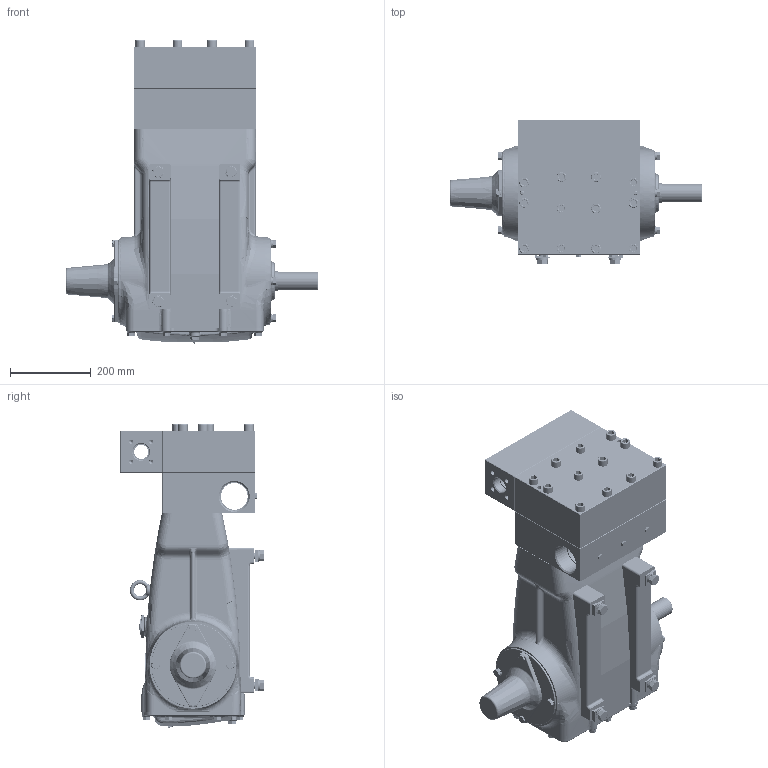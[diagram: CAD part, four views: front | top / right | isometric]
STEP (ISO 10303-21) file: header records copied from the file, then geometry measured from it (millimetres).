
FILE_DESCRIPTION (( 'STEP AP214' ), '1' );
FILE_NAME ('6841.STEP', '2013-01-25T08:22:00', ( '' ), ( '' ), 'SwSTEP 2.0', 'SolidWorks 2012', '' );
FILE_SCHEMA (( 'AUTOMOTIVE_DESIGN' ));
Length unit declared in the file: millimetre
Products named in the file (1): 6841
Bounding box: 624 x 357.13 x 749.46 mm (x, y, z)
Volume: 43155883.7 mm3; surface area: 2292684.3 mm2
Topology: 1 solids, 57 shells, 5209 faces, 12685 edges, 7755 vertices
Faces by surface type: plane 2052, cylinder 1292, torus 723, bspline 672, cone 288, sphere 182
Entity records: 207605 total; most frequent: CARTESIAN_POINT 66936, ORIENTED_EDGE 25026, DIRECTION 24137, EDGE_CURVE 12513, AXIS2_PLACEMENT_3D 9206, VERTEX_POINT 7699, VECTOR 5725, LINE 5725
